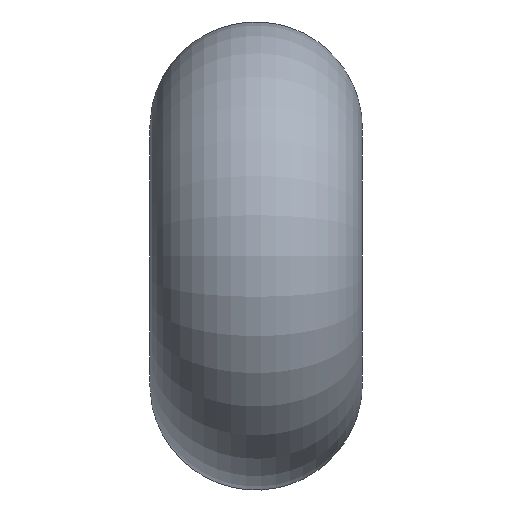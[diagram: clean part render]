
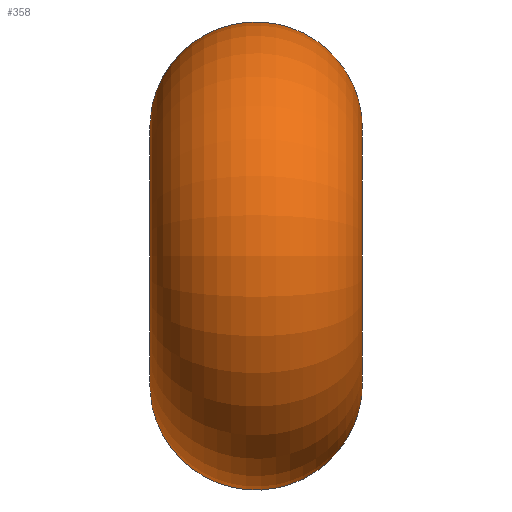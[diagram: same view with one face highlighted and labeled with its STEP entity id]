
A CAD part, left-side view. The second image highlights one B-rep face of the part: STEP entity #358.
In plain terms, the highlighted toroidal (fillet/blend) face has major radius 3 mm and minor radius 2.5 mm.
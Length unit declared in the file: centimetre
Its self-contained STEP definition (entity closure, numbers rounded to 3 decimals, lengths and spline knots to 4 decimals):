
#99=CARTESIAN_POINT('',(0.516,0.1059,-0.173));
#100=VERTEX_POINT('',#99);
#121=CARTESIAN_POINT('',(0.3935,0.217,-0.289));
#122=VERTEX_POINT('',#121);
#130=CARTESIAN_POINT('',(0.3935,0.217,-0.289));
#131=CARTESIAN_POINT('',(0.4036,0.2226,-0.267));
#132=CARTESIAN_POINT('',(0.4298,0.2255,-0.2197));
#133=CARTESIAN_POINT('',(0.4876,0.1878,-0.1658));
#134=CARTESIAN_POINT('',(0.5119,0.1361,-0.1643));
#135=CARTESIAN_POINT('',(0.516,0.1059,-0.173));
#136=B_SPLINE_CURVE_WITH_KNOTS('',3,(#130,#131,#132,#133,#134,#135),.UNSPECIFIED.,.F.,.U.,(4,1,1,4),(0.1803,0.2122,0.2442,0.2922),.UNSPECIFIED.);
#137=EDGE_CURVE('',#122,#100,#136,.T.);
#219=CARTESIAN_POINT('',(0.516,0.1059,-0.173));
#220=CARTESIAN_POINT('',(0.5168,0.1002,-0.1746));
#221=CARTESIAN_POINT('',(0.5177,0.0888,-0.1783));
#222=CARTESIAN_POINT('',(0.5171,0.0666,-0.1877));
#223=CARTESIAN_POINT('',(0.5111,0.0407,-0.2044));
#224=CARTESIAN_POINT('',(0.4963,0.0167,-0.2324));
#225=CARTESIAN_POINT('',(0.4796,0.0047,-0.2603));
#226=CARTESIAN_POINT('',(0.4649,0.0007,-0.2838));
#227=CARTESIAN_POINT('',(0.4498,0.0004,-0.3075));
#228=CARTESIAN_POINT('',(0.423,0.0098,-0.3479));
#229=CARTESIAN_POINT('',(0.3896,0.0502,-0.3928));
#230=CARTESIAN_POINT('',(0.3672,0.1222,-0.4013));
#231=CARTESIAN_POINT('',(0.3668,0.1864,-0.3612));
#232=CARTESIAN_POINT('',(0.3822,0.2106,-0.3139));
#233=CARTESIAN_POINT('',(0.3935,0.217,-0.289));
#234=B_SPLINE_CURVE_WITH_KNOTS('',3,(#219,#220,#221,#222,#223,#224,#225,#226,#227,#228,#229,#230,#231,#232,#233),.UNSPECIFIED.,.F.,.U.,(4,1,1,1,1,1,1,1,1,1,1,1,4),(0.,0.0132,0.0264,0.0528,0.0792,0.1056,0.1188,0.132,0.1584,0.2113,0.2641,0.3169,0.3697),.UNSPECIFIED.);
#235=EDGE_CURVE('',#100,#122,#234,.T.);
#296=CARTESIAN_POINT('',(0.0,0.0525,0.0));
#297=DIRECTION('',(0.0,1.0,0.0));
#298=DIRECTION('',(1.0,0.0,0.0));
#299=AXIS2_PLACEMENT_3D('',#296,#297,#298);
#300=TOROIDAL_SURFACE('',#299,0.3,0.25);
#301=CARTESIAN_POINT('',(0.3935,-0.112,0.289));
#302=VERTEX_POINT('',#301);
#303=CARTESIAN_POINT('',(0.516,-0.0009,0.173));
#304=VERTEX_POINT('',#303);
#305=CARTESIAN_POINT('',(0.3935,-0.112,0.289));
#306=CARTESIAN_POINT('',(0.4036,-0.1176,0.267));
#307=CARTESIAN_POINT('',(0.4298,-0.1205,0.2197));
#308=CARTESIAN_POINT('',(0.4876,-0.0828,0.1658));
#309=CARTESIAN_POINT('',(0.5119,-0.0311,0.1643));
#310=CARTESIAN_POINT('',(0.516,-0.0009,0.173));
#311=B_SPLINE_CURVE_WITH_KNOTS('',3,(#305,#306,#307,#308,#309,#310),.UNSPECIFIED.,.F.,.U.,(4,1,1,4),(0.1803,0.2122,0.2442,0.2922),.UNSPECIFIED.);
#312=EDGE_CURVE('',#302,#304,#311,.T.);
#313=ORIENTED_EDGE('',*,*,#312,.F.);
#314=CARTESIAN_POINT('',(0.516,-0.0009,0.173));
#315=CARTESIAN_POINT('',(0.5168,0.0048,0.1746));
#316=CARTESIAN_POINT('',(0.5177,0.0162,0.1783));
#317=CARTESIAN_POINT('',(0.5171,0.0384,0.1877));
#318=CARTESIAN_POINT('',(0.5111,0.0643,0.2044));
#319=CARTESIAN_POINT('',(0.4963,0.0883,0.2324));
#320=CARTESIAN_POINT('',(0.4696,0.1075,0.277));
#321=CARTESIAN_POINT('',(0.4296,0.1034,0.3389));
#322=CARTESIAN_POINT('',(0.3897,0.0547,0.3927));
#323=CARTESIAN_POINT('',(0.3672,-0.0172,0.4013));
#324=CARTESIAN_POINT('',(0.3668,-0.0814,0.3612));
#325=CARTESIAN_POINT('',(0.3822,-0.1056,0.3139));
#326=CARTESIAN_POINT('',(0.3935,-0.112,0.289));
#327=B_SPLINE_CURVE_WITH_KNOTS('',3,(#314,#315,#316,#317,#318,#319,#320,#321,#322,#323,#324,#325,#326),.UNSPECIFIED.,.F.,.U.,(4,1,1,1,1,1,1,1,1,1,4),(0.,0.0132,0.0264,0.0528,0.0792,0.1056,0.1584,0.2113,0.2641,0.3169,0.3697),.UNSPECIFIED.);
#328=EDGE_CURVE('',#304,#302,#327,.T.);
#329=ORIENTED_EDGE('',*,*,#328,.F.);
#330=EDGE_LOOP('',(#313,#329));
#331=FACE_OUTER_BOUND('',#330,.T.);
#332=CARTESIAN_POINT('',(0.3,-0.1975,0.));
#333=VERTEX_POINT('',#332);
#334=CARTESIAN_POINT('',(0.0,-0.1975,0.0));
#335=DIRECTION('',(0.0,1.0,0.0));
#336=DIRECTION('',(-1.0,0.0,0.0));
#337=AXIS2_PLACEMENT_3D('',#334,#335,#336);
#338=CIRCLE('',#337,0.3);
#339=EDGE_CURVE('',#333,#333,#338,.T.);
#340=ORIENTED_EDGE('',*,*,#339,.T.);
#341=EDGE_LOOP('',(#340));
#342=FACE_BOUND('',#341,.T.);
#343=CARTESIAN_POINT('',(0.3,0.3025,0.));
#344=VERTEX_POINT('',#343);
#345=CARTESIAN_POINT('',(0.0,0.3025,0.0));
#346=DIRECTION('',(0.0,-1.0,0.0));
#347=DIRECTION('',(-1.0,0.0,0.0));
#348=AXIS2_PLACEMENT_3D('',#345,#346,#347);
#349=CIRCLE('',#348,0.3);
#350=EDGE_CURVE('',#344,#344,#349,.T.);
#351=ORIENTED_EDGE('',*,*,#350,.T.);
#352=EDGE_LOOP('',(#351));
#353=FACE_BOUND('',#352,.T.);
#354=ORIENTED_EDGE('',*,*,#137,.F.);
#355=ORIENTED_EDGE('',*,*,#235,.F.);
#356=EDGE_LOOP('',(#354,#355));
#357=FACE_BOUND('',#356,.T.);
#358=ADVANCED_FACE('',(#331,#342,#353,#357),#300,.T.);
